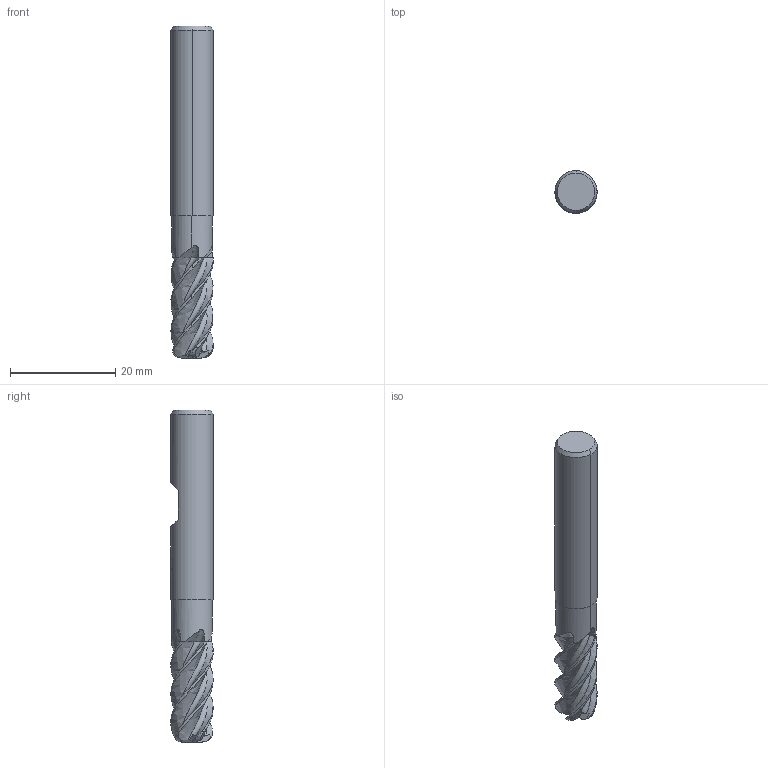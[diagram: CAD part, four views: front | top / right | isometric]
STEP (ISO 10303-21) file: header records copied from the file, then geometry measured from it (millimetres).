
FILE_DESCRIPTION(('no description'),'unknown implementation level');
FILE_NAME('solidiIk8WCtT9BR2AjkM9S_DTviAIQs_1.STP',' ',('CIMSOURCE GmbH'),('CADClick - KiM GmbH - www.kimweb.de'),'unknown preprocess','ACIS','unknown authorization');
FILE_SCHEMA(('automotive_design'));
Length unit declared in the file: millimetre
Products named in the file (2): 1; 2
Bounding box: 8 x 8 x 63 mm (x, y, z)
Volume: 2641.8 mm3; surface area: 1864.8 mm2
Topology: 2 solids, 2 shells, 104 faces, 286 edges, 186 vertices
Faces by surface type: plane 39, bspline 20, revolution 15, cone 13, cylinder 11, torus 6
Entity records: 15174 total; most frequent: CARTESIAN_POINT 9585, STYLED_ITEM 578, PRESENTATION_STYLE_ASSIGNMENT 578, COLOUR_RGB 578, ORIENTED_EDGE 572, DIRECTION 361, EDGE_CURVE 286, CURVE_STYLE 286
